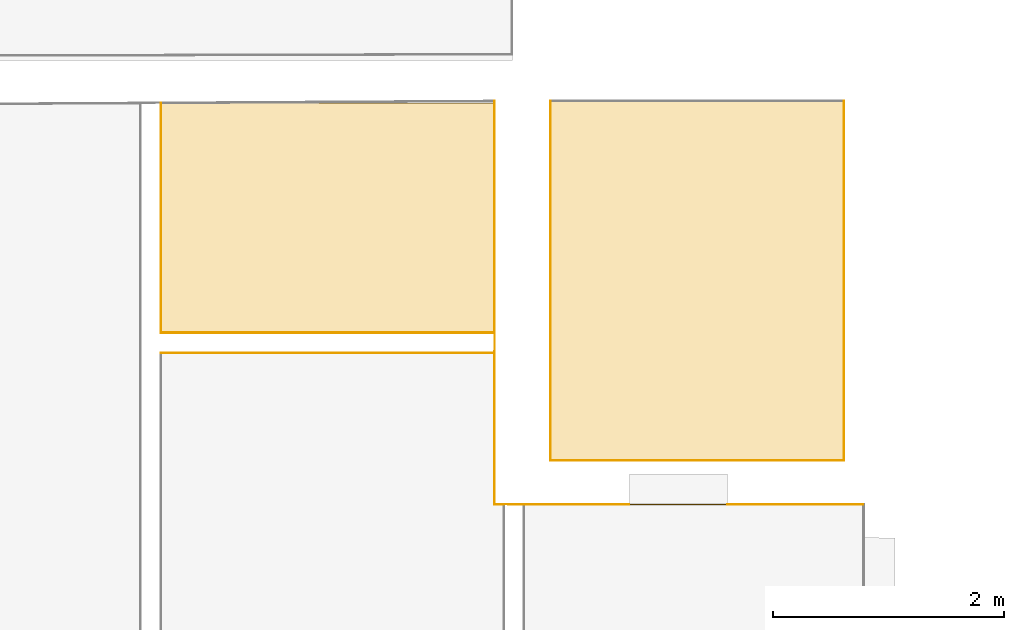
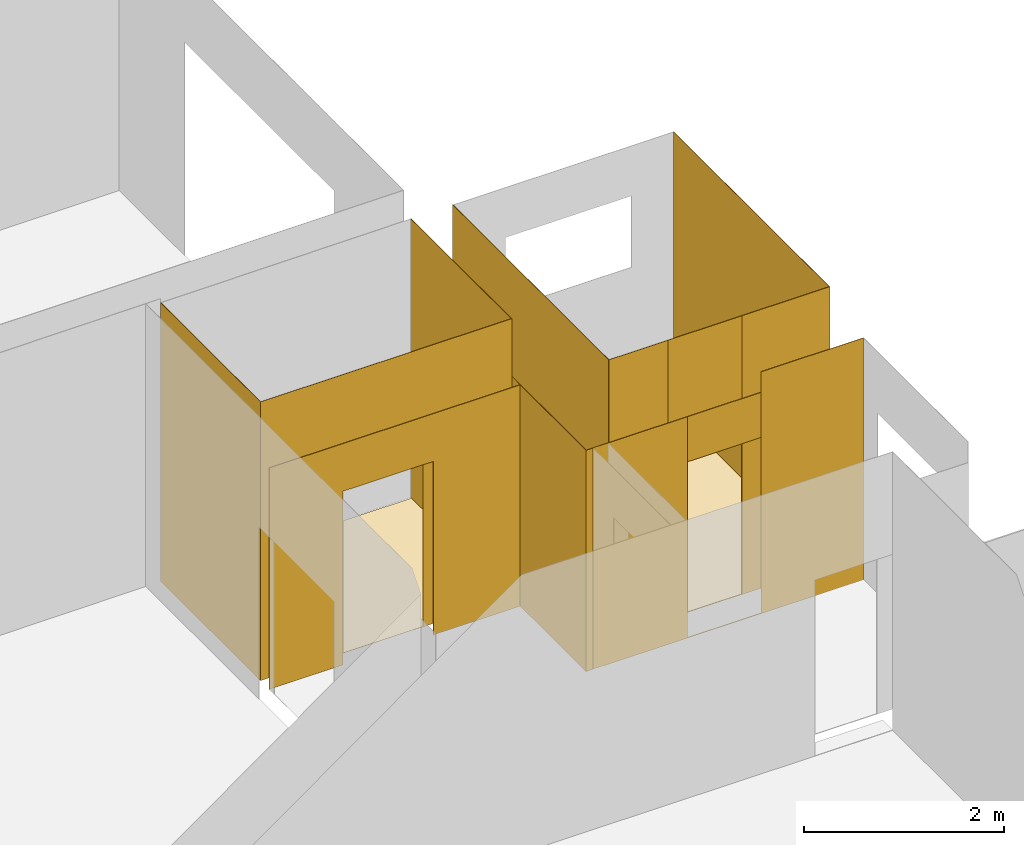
# One storey, part 14 of 33: 16 coverings, 4 openings.
"""IFC2X3 building model written with IfcOpenShell, lengths in millimetres."""

import ifcopenshell
import ifcopenshell.guid

model = None  # the IFC model being written
_history = None  # IfcOwnerHistory: only IFC2X3 demands one
_inside = {}  # id of a spatial element -> (the spatial element, [elements in it])
_under = {}  # id of a project, library or spatial element -> (it, [spatial elements below it])
_declared = {}  # id of a project -> (the project, [libraries it declares])
_typed = {}  # id of a type object -> (the type object, [elements of that type])
_made_of = {}  # id of a material, layer set ... -> (it, [elements and type objects made of it])


def new_model(schema):
    """Start an empty IFC model of exactly this schema.

    Asked for "IFC4X3", IfcOpenShell would pick the latest addendum, in which some entities
    have other attributes; the version numbers below select the first issue.
    IFC2X3 requires an IfcOwnerHistory on every rooted entity: one is made here for all.
    """
    global model, _history
    if schema == "IFC4X3":
        model = ifcopenshell.file(schema_version=(4, 3, 0, 0))
    else:
        model = ifcopenshell.file(schema=schema)
    _inside.clear()
    _under.clear()
    _declared.clear()
    _typed.clear()
    _made_of.clear()
    _history = None
    if model.schema == "IFC2X3":
        org = make("IfcOrganization", Name="unknown")
        user = make(
            "IfcPersonAndOrganization",
            ThePerson=make("IfcPerson", FamilyName="unknown"),
            TheOrganization=org,
        )
        app = make(
            "IfcApplication",
            ApplicationDeveloper=org,
            Version="unknown",
            ApplicationFullName="unknown",
            ApplicationIdentifier="unknown",
        )
        _history = make(
            "IfcOwnerHistory",
            OwningUser=user,
            OwningApplication=app,
            ChangeAction="ADDED",
            CreationDate=0,
        )
    return model


def make(cls, **values):
    """One entity of the class cls with the attributes given. An attribute that is None is left unset."""
    return model.create_entity(
        cls, **{name: value for name, value in values.items() if value is not None}
    )


def entity(cls, *values):
    """Any entity or typed value of the class cls, its attributes in the order of the schema. None: left unset."""
    e = model.create_entity(cls)
    for i, value in enumerate(values):
        if value is not None:
            e[i] = value
    return e


def rooted(cls, **values):
    """An entity with a GlobalId (a new one), such as an element, a storey or a relation."""
    return make(cls, GlobalId=ifcopenshell.guid.new(), OwnerHistory=_history, **values)


def si_unit(unit_type, name, prefix=None):
    """IfcSIUnit, for example si_unit("LENGTHUNIT", "METRE", prefix="MILLI")."""
    return make("IfcSIUnit", UnitType=unit_type, Prefix=prefix, Name=name)


def converted_unit(unit_type, name, factor, base, dimensions=None, offset=None):
    """IfcConversionBasedUnit, such as the inch: factor (a typed value) times the base unit."""
    return make(
        "IfcConversionBasedUnit"
        if offset is None
        else "IfcConversionBasedUnitWithOffset",
        ConversionOffset=offset,
        Dimensions=None
        if dimensions is None
        else entity("IfcDimensionalExponents", *dimensions),
        UnitType=unit_type,
        Name=name,
        ConversionFactor=make(
            "IfcMeasureWithUnit", ValueComponent=factor, UnitComponent=base
        ),
    )


def derived_unit(unit_type, elements):
    """IfcDerivedUnit: a product of units, each with its exponent."""
    return make(
        "IfcDerivedUnit",
        Elements=[
            make("IfcDerivedUnitElement", Unit=unit, Exponent=power)
            for unit, power in elements
        ],
        UnitType=unit_type,
    )


def money_unit(currency):
    """IfcMonetaryUnit."""
    return make("IfcMonetaryUnit", Currency=currency)


def assignment(units):
    """IfcUnitAssignment: the units of a project."""
    return None if units is None else make("IfcUnitAssignment", Units=units)


def point(xyz):
    """IfcCartesianPoint."""
    return None if xyz is None else make("IfcCartesianPoint", Coordinates=xyz)


def direction(xyz):
    """IfcDirection."""
    return None if xyz is None else make("IfcDirection", DirectionRatios=xyz)


def frame(location, z_axis=None, x_axis=None):
    """IfcAxis2Placement3D, a coordinate frame: its origin and axes. An axis left out is left unset."""
    return make(
        "IfcAxis2Placement3D",
        Location=point(location),
        Axis=direction(z_axis),
        RefDirection=direction(x_axis),
    )


def frame_2d(location, x_axis=None):
    """IfcAxis2Placement2D, a coordinate frame in the plane: its origin and x axis."""
    return make(
        "IfcAxis2Placement2D", Location=point(location), RefDirection=direction(x_axis)
    )


def origin_with_axes():
    """The frame at (0, 0, 0) with the z axis (0, 0, 1) and the x axis (1, 0, 0) written out."""
    return frame((0.0, 0.0, 0.0), z_axis=(0.0, 0.0, 1.0), x_axis=(1.0, 0.0, 0.0))


def origin_2d_with_axis():
    """The frame at (0, 0) in the plane with the x axis (1, 0) written out."""
    return frame_2d((0.0, 0.0), x_axis=(1.0, 0.0))


def place(relative_to, where):
    """IfcLocalPlacement: puts the frame where relative to a parent placement (None: the world)."""
    return make(
        "IfcLocalPlacement", PlacementRelTo=relative_to, RelativePlacement=where
    )


def context(
    kind, dimensions, precision=None, world=None, true_north=None, identifier=None
):
    """IfcGeometricRepresentationContext, for example the 3D "Model" context."""
    return make(
        "IfcGeometricRepresentationContext",
        ContextIdentifier=identifier,
        ContextType=kind,
        CoordinateSpaceDimension=dimensions,
        Precision=precision,
        WorldCoordinateSystem=world,
        TrueNorth=true_north,
    )


def subcontext(parent, identifier, kind, view, scale=None):
    """IfcGeometricRepresentationSubContext, for example "Body" below "Model"."""
    return make(
        "IfcGeometricRepresentationSubContext",
        ContextIdentifier=identifier,
        ContextType=kind,
        ParentContext=parent,
        TargetScale=scale,
        TargetView=view,
    )


def project(units=None, contexts=None):
    """IfcProject with its units and contexts."""
    return rooted(
        "IfcProject",
        Name="project",
        RepresentationContexts=contexts,
        UnitsInContext=assignment(units),
    )


def spatial(cls, under=None, at=None, **own):
    """A site, building, storey or space (cls), placed at a placement, below another one or the project."""
    s = rooted(cls, ObjectPlacement=at, **own)
    if under is not None:
        _under.setdefault(under.id(), (under, []))[1].append(s)
    return s


def polyline(points):
    """IfcPolyline through the points."""
    return make("IfcPolyline", Points=[point(p) for p in points])


def profile(cls, at=None, kind="AREA", **sizes):
    """A parametric profile (cls). Its sizes go by their IFC names, for example OverallWidth=200.0."""
    return make(cls, ProfileType=kind, Position=at, **sizes)


def rectangle(**sizes):
    """IfcRectangleProfileDef."""
    return profile("IfcRectangleProfileDef", **sizes)


def outline(outer, holes=None, kind="AREA"):
    """IfcArbitraryClosedProfileDef: a profile drawn as a closed curve; with holes, ...WithVoids."""
    if holes is None:
        return make("IfcArbitraryClosedProfileDef", ProfileType=kind, OuterCurve=outer)
    return make(
        "IfcArbitraryProfileDefWithVoids",
        ProfileType=kind,
        OuterCurve=outer,
        InnerCurves=holes,
    )


def extrude(swept, where, along, depth):
    """IfcExtrudedAreaSolid: the profile swept, set in the frame where, extruded along a direction by depth."""
    return make(
        "IfcExtrudedAreaSolid",
        SweptArea=swept,
        Position=where,
        ExtrudedDirection=direction(along),
        Depth=depth,
    )


def shape(context_of_items, identifier, shape_type, items):
    """IfcShapeRepresentation: the items that make up one representation, for example the "Body"."""
    return make(
        "IfcShapeRepresentation",
        ContextOfItems=context_of_items,
        RepresentationIdentifier=identifier,
        RepresentationType=shape_type,
        Items=items,
    )


def material(Name=None, Category=None):
    """IfcMaterial."""
    return make("IfcMaterial", Name=Name, Category=Category)


def made_of(thing, what):
    """Note that an element or type object is made of a material, layer set ...; save() writes the relation."""
    if what is not None:
        _made_of.setdefault(what.id(), (what, []))[1].append(thing)
    return thing


def type_object(cls, material=None, **own):
    """A type object (cls), such as IfcWallType, which elements share."""
    return made_of(rooted(cls, **own), material)


def element(
    cls,
    number,
    at=None,
    inside=None,
    cuts=None,
    type_object=None,
    material=None,
    context=None,
    identifier="Body",
    shape_type=None,
    held_by="IfcProductDefinitionShape",
    body=None,
    shapes=None,
    **own,
):
    """One element of the class cls, such as IfcWall. Its Tag is "e" and its number.

    at: its placement. inside: the storey or other place that contains it. cuts: it is an
    opening in that element (IfcRelVoidsElement). A single representation is given by context,
    identifier, shape_type and body (its items); several are given by shapes. held_by: the class
    of the entity that holds the representations. save() writes the other relations.
    """
    e = rooted(cls, Tag="e%d" % number, ObjectPlacement=at, **own)
    if body is not None:
        shapes = [shape(context, identifier, shape_type, body)]
    if shapes is not None:
        e.Representation = make(held_by, Representations=shapes)
    if inside is not None:
        _inside.setdefault(inside.id(), (inside, []))[1].append(e)
    if cuts is not None:
        rooted(
            "IfcRelVoidsElement", RelatingBuildingElement=cuts, RelatedOpeningElement=e
        )
    if type_object is not None:
        _typed.setdefault(type_object.id(), (type_object, []))[1].append(e)
    return made_of(e, material)


def aggregate(whole, parts):
    """IfcRelAggregates: a whole, such as a stair, and the parts it consists of."""
    return rooted("IfcRelAggregates", RelatingObject=whole, RelatedObjects=parts)


def save(model, path):
    """Write the relations noted so far, then the file.

    IfcRelAggregates (storeys below a building ...), IfcRelContainedInSpatialStructure (elements
    in a storey), IfcRelDefinesByType, IfcRelAssociatesMaterial and IfcRelDeclares: one each for
    every whole, place, type object, material and project.
    """
    for whole, parts in _under.values():
        aggregate(whole, parts)
    for where, things in _inside.values():
        rooted(
            "IfcRelContainedInSpatialStructure",
            RelatedElements=things,
            RelatingStructure=where,
        )
    for kind, things in _typed.values():
        rooted("IfcRelDefinesByType", RelatedObjects=things, RelatingType=kind)
    for what, things in _made_of.values():
        rooted("IfcRelAssociatesMaterial", RelatedObjects=things, RelatingMaterial=what)
    for by, libraries in _declared.values():
        rooted("IfcRelDeclares", RelatingContext=by, RelatedDefinitions=libraries)
    model.write(path)


model = new_model("IFC2X3")

# Units and contexts
model_context = context("Model", 3, precision=0.01, world=origin_with_axes(), true_north=direction((0.0, 1.0)))
body_context = subcontext(model_context, "Body", "Model", "MODEL_VIEW")
ifc_project = project(units=[si_unit("LENGTHUNIT", "METRE", prefix="MILLI"), si_unit("AREAUNIT", "SQUARE_METRE"), si_unit("VOLUMEUNIT", "CUBIC_METRE"), converted_unit("PLANEANGLEUNIT", "DEGREE", entity("IfcPlaneAngleMeasure", 0.0174532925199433), si_unit("PLANEANGLEUNIT", "RADIAN"), dimensions=[0, 0, 0, 0, 0, 0, 0]), money_unit("EUR"), converted_unit("TIMEUNIT", "Year", entity("IfcTimeMeasure", 31556926.0), si_unit("TIMEUNIT", "SECOND"), dimensions=[0, 0, 1, 0, 0, 0, 0]), si_unit("MASSUNIT", "GRAM", prefix="KILO"), si_unit("THERMODYNAMICTEMPERATUREUNIT", "DEGREE_CELSIUS"), si_unit("LUMINOUSINTENSITYUNIT", "LUMEN"), si_unit("ENERGYUNIT", "JOULE", prefix="MEGA"), derived_unit("THERMALCONDUCTANCEUNIT", [(si_unit("POWERUNIT", "WATT"), 1), (si_unit("LENGTHUNIT", "METRE"), -1), (si_unit("THERMODYNAMICTEMPERATUREUNIT", "KELVIN"), -1)]), derived_unit("SPECIFICHEATCAPACITYUNIT", [(si_unit("ENERGYUNIT", "JOULE"), 1), (si_unit("MASSUNIT", "GRAM", prefix="KILO"), -1), (si_unit("THERMODYNAMICTEMPERATUREUNIT", "KELVIN"), -1)]), derived_unit("MASSDENSITYUNIT", [(si_unit("MASSUNIT", "GRAM", prefix="KILO"), 1), (si_unit("VOLUMEUNIT", "CUBIC_METRE"), -1)])], contexts=[model_context])

# Site, building, storey
site_placement = place(None, origin_with_axes())
site = spatial("IfcSite", under=ifc_project, at=site_placement, Name="Paldiski mnt 245/1, Tallinn, Harjumaa", CompositionType="COMPLEX")
building_placement = place(site_placement, origin_with_axes())
building = spatial("IfcBuilding", under=site, at=building_placement, Name="RKAS Hoone üldnimetus (kasutust iseloomustav) -> IFC Project Manager -> SOLIBRI", CompositionType="ELEMENT")
storey_placement = place(building_placement, origin_with_axes())
storey = spatial("IfcBuildingStorey", under=building, at=storey_placement, Name="Esimene korrus", CompositionType="ELEMENT", Elevation=0.0)

# Coverings
ifc_material_1 = material(Name="SA- PM-7 plaat 15x15")
covering_type_1 = type_object("IfcCoveringType", Name="SA- PM-7 plaat 15x15 8", PredefinedType="FLOORING")
covering_1_placement = place(storey_placement, frame((-49452.25119955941, 11749.82870911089, 0.0), z_axis=(0.0, 0.0, 1.0), x_axis=(1.0, 0.0, 0.0)))
element("IfcCovering", 1, at=covering_1_placement, inside=storey, type_object=covering_type_1, material=ifc_material_1, Name="PM-7", PredefinedType="FLOORING", context=body_context, shape_type="SweptSolid", body=[
    extrude(outline(polyline([(0.0, 0.0), (-607.7463869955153, 0.0), (-607.7463869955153, -3119.828709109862), (1942.251201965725, -3119.828709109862), (1942.251201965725, 0.0), (1450.000047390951, 0.0), (1450.000372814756, -0.4137996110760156), (0.0, 0.0)])), origin_with_axes(), (0.0, 0.0, 1.0), 8.0),
])
ifc_material_2 = material(Name="SA- Värv SM5(valge)")
covering_type_2 = type_object("IfcCoveringType", Name="SA- Värv SM5(valge) 5", PredefinedType="CLADDING")
covering_2_placement = place(storey_placement, frame((-50059.99758655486, 11749.82872435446, 0.0), z_axis=(0.0, 0.0, 1.0), x_axis=(0.0, -1.0, 0.0)))
element("IfcCovering", 2, at=covering_2_placement, inside=storey, type_object=covering_type_2, material=ifc_material_2, Name="SM5", PredefinedType="CLADDING", context=body_context, shape_type="SweptSolid", body=[
    extrude(outline(polyline([(0.0, 0.0), (3119.828724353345, 0.0), (3114.828724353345, 5.000000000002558), (0.0, 5.000000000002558), (0.0, 0.0)])), origin_with_axes(), (0.0, 0.0, 1.0), 3400.0),
])
covering_3_placement = place(storey_placement, frame((-48524.9975905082, 8630.00000000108, 0.0), z_axis=(0.0, 0.0, 1.0), x_axis=(1.0, 0.0, 0.0)))
element("IfcCovering", 3, at=covering_3_placement, inside=storey, type_object=covering_type_2, material=ifc_material_2, Name="SM5", PredefinedType="CLADDING", context=body_context, shape_type="SweptSolid", body=[
    extrude(outline(polyline([(0.0, 0.0), (1014.997590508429, 0.0), (1009.997590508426, 5.000000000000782), (0.0, 5.000000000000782), (0.0, 0.0)])), origin_with_axes(), (0.0, 0.0, 1.0), 3400.0),
])
covering_4_placement = place(storey_placement, frame((-49374.99758190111, 8250.000000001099, 0.0), z_axis=(0.0, 0.0, 1.0), x_axis=(-1.0, 0.0, 0.0)))
element("IfcCovering", 4, at=covering_4_placement, inside=storey, type_object=covering_type_2, material=ifc_material_2, Name="SM5", PredefinedType="CLADDING", context=body_context, shape_type="SweptSolid", body=[
    extrude(outline(polyline([(0.0, 0.0), (1085.002418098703, 0.0), (915.0024180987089, 5.000000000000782), (0.0, 5.000000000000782), (0.0, 0.0)])), origin_with_axes(), (0.0, 0.0, 1.0), 2700.0),
])
covering_5_placement = place(storey_placement, frame((-47509.99999999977, 8630.000000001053, 0.0), z_axis=(0.0, 0.0, 1.0), x_axis=(0.0, 1.0, 0.0)))
element("IfcCovering", 5, at=covering_5_placement, inside=storey, type_object=covering_type_2, material=ifc_material_2, Name="SM5", PredefinedType="CLADDING", context=body_context, shape_type="SweptSolid", body=[
    extrude(outline(polyline([(0.0, 0.0), (3119.828724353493, 0.0), (3119.828724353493, 5.000000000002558), (5.000000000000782, 5.000000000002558), (0.0, 0.0)])), origin_with_axes(), (0.0, 0.0, 1.0), 3400.0),
])

# Covering, opening
covering_6_placement = place(storey_placement, frame((-48524.9975905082, 8250.00000000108, 0.0), z_axis=(0.0, 0.0, 1.0), x_axis=(-1.0, 0.0, 0.0)))
covering_6 = element("IfcCovering", 6, at=covering_6_placement, inside=storey, type_object=covering_type_2, material=ifc_material_2, Name="SM5", PredefinedType="CLADDING", context=body_context, shape_type="SweptSolid", body=[
    extrude(outline(polyline([(0.0, 0.0), (849.9999913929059, 0.0), (849.9999913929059, 5.000000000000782), (0.0, 5.000000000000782), (0.0, 0.0)])), origin_with_axes(), (0.0, 0.0, 1.0), 2700.0),
])
opening_1_placement = place(covering_6_placement, frame((-48524.9975905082, 8250.00000000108, 0.0), z_axis=(0.0, 0.0, 1.0), x_axis=(-1.0, 0.0, 0.0)))
element("IfcOpeningElement", 7, at=opening_1_placement, cuts=covering_6, Name="AVA", ObjectType="OPENING", context=body_context, shape_type="SweptSolid", body=[
    extrude(rectangle(XDim=849.9999913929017, YDim=2142.0, at=origin_2d_with_axis()), frame((-48949.99758620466, 8255.000000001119, 1079.0), z_axis=(0.0, 1.0, 0.0), x_axis=(-1.0, 0.0, 0.0)), (0.0, 0.0, -1.0), 15.00000000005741),
])

# Coverings
covering_7_placement = place(storey_placement, frame((-53439.99755085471, 11732.64897397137, 0.0), z_axis=(0.0, 0.0, 1.0), x_axis=(0.0, -1.0, 0.0)))
element("IfcCovering", 8, at=covering_7_placement, inside=storey, type_object=covering_type_2, material=ifc_material_2, Name="SM5", PredefinedType="CLADDING", context=body_context, shape_type="SweptSolid", body=[
    extrude(outline(polyline([(0.0, 0.0), (1996.680742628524, 0.0), (1991.680742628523, 5.000000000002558), (-0.02815315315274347, 5.000000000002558), (0.0, 0.0)])), origin_with_axes(), (0.0, 0.0, 1.0), 3400.0),
])
covering_8_placement = place(storey_placement, frame((-50539.99758655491, 9735.96823134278, 0.0), z_axis=(0.0, 0.0, 1.0), x_axis=(0.0, 1.0, 0.0)))
element("IfcCovering", 9, at=covering_8_placement, inside=storey, type_object=covering_type_2, material=ifc_material_2, Name="SM5", PredefinedType="CLADDING", context=body_context, shape_type="SweptSolid", body=[
    extrude(outline(polyline([(0.0, 0.0), (2013.009571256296, 0.0), (2012.981418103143, 5.000000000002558), (5.000000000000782, 5.000000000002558), (0.0, 0.0)])), origin_with_axes(), (0.0, 0.0, 1.0), 3400.0),
])
covering_9_placement = place(storey_placement, frame((-50539.99758655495, 8250.000000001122, 0.0), z_axis=(0.0, 0.0, 1.0), x_axis=(0.0, 1.0, 0.0)))
element("IfcCovering", 10, at=covering_9_placement, inside=storey, type_object=covering_type_2, material=ifc_material_2, Name="SM5", PredefinedType="CLADDING", context=body_context, shape_type="SweptSolid", body=[
    extrude(outline(polyline([(0.0, 0.0), (1485.968231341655, 0.0), (1315.968231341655, 5.000000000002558), (-5.000000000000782, 5.000000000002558), (0.0, 0.0)])), origin_with_axes(), (0.0, 0.0, 1.0), 2700.0),
])
covering_10_placement = place(storey_placement, frame((-50459.99999999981, 8250.00000000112, 0.0), z_axis=(0.0, 0.0, 1.0), x_axis=(-1.0, 0.0, 0.0)))
element("IfcCovering", 11, at=covering_10_placement, inside=storey, type_object=covering_type_2, material=ifc_material_2, Name="SM5", PredefinedType="CLADDING", context=body_context, shape_type="SweptSolid", body=[
    extrude(outline(polyline([(0.0, 0.0), (79.99758655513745, 0.0), (84.99758655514, 5.000000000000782), (5.000000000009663, 5.000000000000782), (0.0, 0.0)])), origin_with_axes(), (0.0, 0.0, 1.0), 2700.0),
])

# Covering, opening
covering_11_placement = place(storey_placement, frame((-53439.99755085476, 9735.968231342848, 0.0), z_axis=(0.0, 0.0, 1.0), x_axis=(1.0, 0.0, 0.0)))
covering_11 = element("IfcCovering", 12, at=covering_11_placement, inside=storey, type_object=covering_type_2, material=ifc_material_2, Name="SM5", PredefinedType="CLADDING", context=body_context, shape_type="SweptSolid", body=[
    extrude(outline(polyline([(0.0, 0.0), (2899.999964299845, 0.0), (2894.999964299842, 5.000000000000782), (5.000000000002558, 5.000000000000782), (0.0, 0.0)])), origin_with_axes(), (0.0, 0.0, 1.0), 3400.0),
])
opening_2_placement = place(covering_11_placement, frame((53439.99755085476, -9735.968231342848, 0.0), z_axis=(0.0, 0.0, 1.0), x_axis=(1.0, 0.0, 0.0)))
element("IfcOpeningElement", 13, at=opening_2_placement, cuts=covering_11, Name="AVA", ObjectType="OPENING", context=body_context, shape_type="SweptSolid", body=[
    extrude(rectangle(XDim=1031.027993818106, YDim=2123.505001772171, at=origin_2d_with_axis()), frame((-52078.14704894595, 9730.968231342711, 1061.752500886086), z_axis=(0.0, -1.0, 0.0), x_axis=(1.0, 0.0, 0.0)), (0.0, 0.0, -1.0), 15.00000000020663),
])

covering_12_placement = place(storey_placement, frame((-50539.99758655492, 9565.96823134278, 0.0), z_axis=(0.0, 0.0, 1.0), x_axis=(-1.0, 0.0, 0.0)))
covering_12 = element("IfcCovering", 14, at=covering_12_placement, inside=storey, type_object=covering_type_2, material=ifc_material_2, Name="SM5", PredefinedType="CLADDING", context=body_context, shape_type="SweptSolid", body=[
    extrude(outline(polyline([(5.000000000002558, 0.0), (2899.999964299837, 0.0), (2899.999964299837, 4.999999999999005), (5.000000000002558, 5.000000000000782), (5.000000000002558, 0.0)])), origin_with_axes(), (0.0, 0.0, 1.0), 2700.0),
])
opening_3_placement = place(covering_12_placement, frame((-50539.99758655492, 9565.96823134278, 0.0), z_axis=(0.0, 0.0, 1.0), x_axis=(-1.0, 0.0, 0.0)))
element("IfcOpeningElement", 15, at=opening_3_placement, cuts=covering_12, Name="AVA", ObjectType="OPENING", context=body_context, shape_type="SweptSolid", body=[
    extrude(rectangle(XDim=1043.18382039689, YDim=2117.683144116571, at=origin_2d_with_axis()), frame((-52067.34512593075, 9570.96823134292, 1058.841572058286), z_axis=(0.0, 1.0, 0.0), x_axis=(-1.0, 0.0, 0.0)), (0.0, 0.0, -1.0), 15.00000000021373),
])

covering_13_placement = place(storey_placement, frame((-49374.9975819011, 8630.000000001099, 0.0), z_axis=(0.0, 0.0, 1.0), x_axis=(1.0, 0.0, 0.0)))
covering_13 = element("IfcCovering", 16, at=covering_13_placement, inside=storey, type_object=covering_type_2, material=ifc_material_2, Name="SM5", PredefinedType="CLADDING", context=body_context, shape_type="SweptSolid", body=[
    extrude(outline(polyline([(0.0, 0.0), (849.9999913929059, 0.0), (849.9999913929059, 5.000000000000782), (0.0, 5.000000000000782), (0.0, 0.0)])), origin_with_axes(), (0.0, 0.0, 1.0), 3400.0),
])
opening_4_placement = place(covering_13_placement, frame((49374.9975819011, -8630.000000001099, 0.0), z_axis=(0.0, 0.0, 1.0), x_axis=(1.0, 0.0, 0.0)))
element("IfcOpeningElement", 17, at=opening_4_placement, cuts=covering_13, Name="AVA", ObjectType="OPENING", context=body_context, shape_type="SweptSolid", body=[
    extrude(rectangle(XDim=849.9999913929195, YDim=2150.0, at=origin_2d_with_axis()), frame((-48949.99758620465, 8625.000000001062, 1075.0), z_axis=(0.0, -1.0, 0.0), x_axis=(1.0, 0.0, 0.0)), (0.0, 0.0, -1.0), 15.00000000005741),
])

# Coverings
covering_14_placement = place(storey_placement, frame((-50059.99758655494, 8630.000000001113, 0.0), z_axis=(0.0, 0.0, 1.0), x_axis=(1.0, 0.0, 0.0)))
element("IfcCovering", 18, at=covering_14_placement, inside=storey, type_object=covering_type_2, material=ifc_material_2, Name="SM5", PredefinedType="CLADDING", context=body_context, shape_type="SweptSolid", body=[
    extrude(outline(polyline([(0.0, 0.0), (685.000004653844, 0.0), (685.000004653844, 5.000000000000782), (0.0, 5.000000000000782), (0.0, 0.0)])), origin_with_axes(), (0.0, 0.0, 1.0), 3400.0),
])
ifc_material_3 = material(Name="SA- Värv SM7(beez)")
covering_type_3 = type_object("IfcCoveringType", Name="SA- Värv SM7(beez) 5", PredefinedType="CLADDING")
covering_15_placement = place(storey_placement, frame((-47339.9999999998, 8250.000000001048, 0.0), z_axis=(0.0, 0.0, 1.0), x_axis=(-1.0, 0.0, 0.0)))
element("IfcCovering", 19, at=covering_15_placement, inside=storey, type_object=covering_type_3, material=ifc_material_3, Name="SM7", PredefinedType="CLADDING", context=body_context, shape_type="SweptSolid", body=[
    extrude(outline(polyline([(5.000000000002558, 0.0), (1184.997590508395, 0.0), (1184.997590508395, 5.000000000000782), (5.000000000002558, 5.000000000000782), (5.000000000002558, 0.0)])), origin_with_axes(), (0.0, 0.0, 1.0), 2950.0),
])
ifc_material_4 = material(Name="SA- PM-6 vinüül")
covering_type_4 = type_object("IfcCoveringType", Name="SA- PM-6 vinüül 3", PredefinedType="FLOORING")
covering_16_placement = place(storey_placement, frame((-53439.99755085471, 9735.96823134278, 0.0), z_axis=(0.0, 0.0, 1.0), x_axis=(1.0, 0.0, 0.0)))
element("IfcCovering", 20, at=covering_16_placement, inside=storey, type_object=covering_type_4, material=ifc_material_4, Name="PM-6", PredefinedType="FLOORING", context=body_context, shape_type="SweptSolid", body=[
    extrude(outline(polyline([(0.0, 0.0), (2899.999964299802, 0.0), (2899.999964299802, 1996.680742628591), (0.0, 1996.680742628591), (0.0, 0.0)])), origin_with_axes(), (0.0, 0.0, 1.0), 3.0),
])

save(model, "model.ifc")
